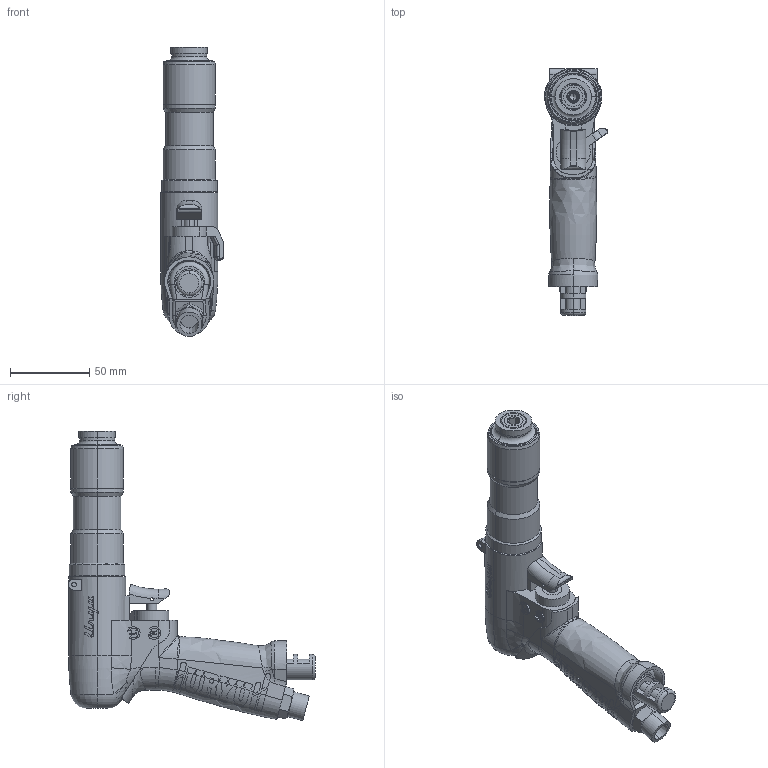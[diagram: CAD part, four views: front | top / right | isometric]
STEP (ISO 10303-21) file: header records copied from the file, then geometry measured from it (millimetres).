
FILE_DESCRIPTION (( 'STEP AP203' ), '1' );
FILE_NAME ('US-LT41PB-08.STEP', '2006-03-22T04:19:16', ( '' ), ( '' ), 'SwSTEP 2.0', 'SolidWorks 2003240', '' );
FILE_SCHEMA (( 'CONFIG_CONTROL_DESIGN' ));
Length unit declared in the file: millimetre
Products named in the file (9): 4633697_US-LT41PB-08_蹬怮椔; 4430256_US-LT41PB-08_蹬怮椔; US-LT41PB-08; 4723197_US-LT41PB-08_蹬怮椔; 4725677_US-LT41PB-08_蹬怮椔; 4802128_US-LT41PB-08_蹬怮椔; 1771075_US-LT41PB-08_蹬怮椔; 9810020_US-LT41PB-08_蹬怮椔; 1748428_US-LT41PB-08_蹬怮椔
Assembly tree (8 placements, depth 2):
  US-LT41PB-08
    4723197_US-LT41PB-08_蹬怮椔
    4802128_US-LT41PB-08_蹬怮椔
    1748428_US-LT41PB-08_蹬怮椔
    4633697_US-LT41PB-08_蹬怮椔
    1771075_US-LT41PB-08_蹬怮椔
    4430256_US-LT41PB-08_蹬怮椔
    4725677_US-LT41PB-08_蹬怮椔
    9810020_US-LT41PB-08_蹬怮椔
Bounding box: 39.87 x 155.5 x 182.21 mm (x, y, z)
Volume: 265343.8 mm3; surface area: 65444.3 mm2
Topology: 8 solids, 8 shells, 1237 faces, 3380 edges, 2196 vertices
Faces by surface type: plane 633, cylinder 269, bspline 265, cone 40, torus 28, sphere 2
Entity records: 152528 total; most frequent: CARTESIAN_POINT 124459, ORIENTED_EDGE 6734, DIRECTION 4125, EDGE_CURVE 3367, VERTEX_POINT 2193, AXIS2_PLACEMENT_3D 1460, B_SPLINE_CURVE_WITH_KNOTS 1300, EDGE_LOOP 1294
